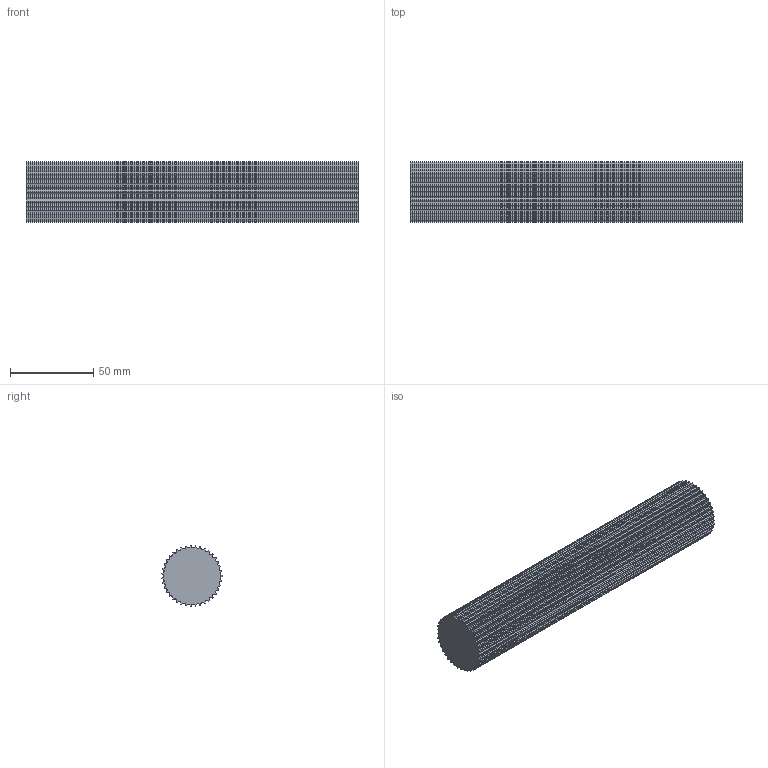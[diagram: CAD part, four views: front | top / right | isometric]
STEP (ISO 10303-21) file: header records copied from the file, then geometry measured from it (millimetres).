
FILE_DESCRIPTION( ( 'STEP AP214' ), '1' );
FILE_NAME( 'C:/Users/StangenbergN/Desktop/Steps Zahnriemenräder/K166_HTD-Zahnwellen/17093900.stp', '2019-06-06T09:35:08', ( '' ), ( '' ), ' ', 'PARTsolutions', ' ' );
FILE_SCHEMA( ( 'AUTOMOTIVE_DESIGN { 1 0 10303 214 1 1 1 1 }' ) );
Length unit declared in the file: millimetre
Products named in the file (1): _17093900
Bounding box: 200 x 36.43 x 36.46 mm (x, y, z)
Volume: 192401.1 mm3; surface area: 33219 mm2
Topology: 1 solids, 1 shells, 314 faces, 936 edges, 624 vertices
Faces by surface type: cylinder 195, plane 119
Entity records: 13238 total; most frequent: DIRECTION 1956, CARTESIAN_POINT 1875, ORIENTED_EDGE 1872, EDGE_CURVE 936, AXIS2_PLACEMENT_3D 705, VERTEX_POINT 624, LINE 546, VECTOR 546
